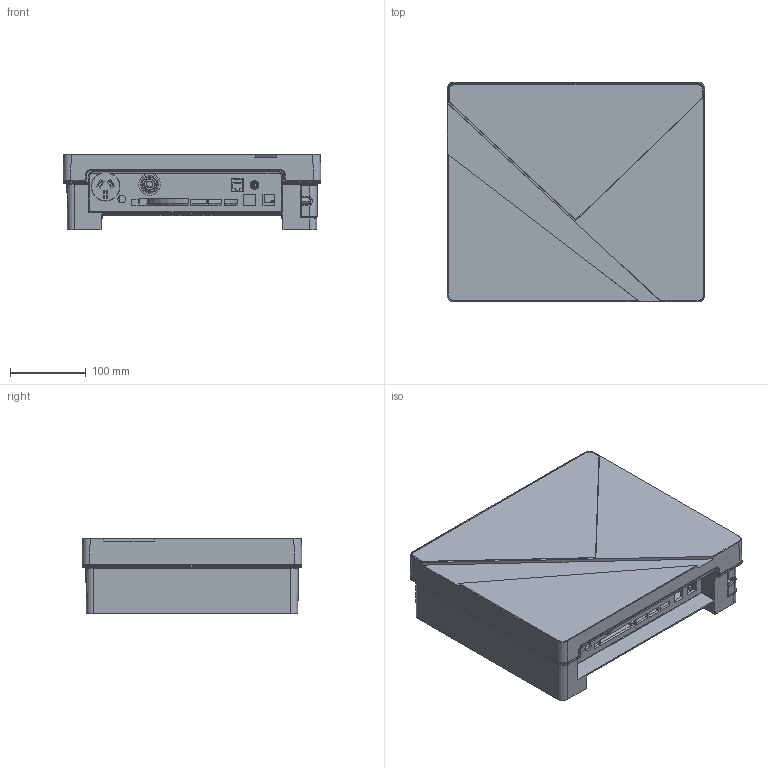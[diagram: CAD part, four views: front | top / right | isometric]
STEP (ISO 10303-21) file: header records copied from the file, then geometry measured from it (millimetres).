
FILE_DESCRIPTION((''),'2;1');
FILE_NAME('CLORADOR_A01_ASM','2024-11-04T09:03:57',('PC'),(''),'CREO PARAMETRIC BY PTC INC, 2024133','CREO PARAMETRIC BY PTC INC, 2024133','');
FILE_SCHEMA(('AUTOMOTIVE_DESIGN { 1 0 10303 214 1 1 1 1 }'));
Products named in the file (17): CARCASA_INF_A01; CARCASA_SUP_A01; PANTALLA_PMMA_A01; PANTALLA; FA-UHP-350; SCHUKO_AUS; SALNIK_IP55_DKC54520; TAPA_CONECTOR_A01; TRAFO; ISO7045-M3X8-4_8; DINENISO7092-3; ISO7045-M4X18-4_8; DINENISO7092-4; ISO7380-2-M4X35-8_8; VS-08-BU-RJ45_BU_RF_1; C-CSI-RGFB-100-UFFR-D-3D; CLORADOR_A01_ASM
Assembly tree (29 placements, depth 2):
  CLORADOR_A01_ASM
    CARCASA_INF_A01
    CARCASA_SUP_A01
    PANTALLA_PMMA_A01
    PANTALLA
    FA-UHP-350
    SCHUKO_AUS
    SALNIK_IP55_DKC54520
    TAPA_CONECTOR_A01
    TRAFO
    ISO7045-M3X8-4_8  x4
    DINENISO7092-3  x4
    ISO7045-M4X18-4_8  x4
    DINENISO7092-4  x4
    ISO7380-2-M4X35-8_8  x2
    VS-08-BU-RJ45_BU_RF_1
    C-CSI-RGFB-100-UFFR-D-3D
Bounding box: 340 x 290 x 100 mm (x, y, z)
Volume: 2207618.5 mm3; surface area: 958101.2 mm2
Topology: 30 solids, 30 shells, 2670 faces, 6749 edges, 4255 vertices
Faces by surface type: plane 1115, cylinder 831, bspline 293, torus 158, cone 153, sphere 116, extrusion 4
Entity records: 141317 total; most frequent: CARTESIAN_POINT 51805, ORIENTED_EDGE 12602, DIRECTION 11363, PRESENTATION_STYLE_ASSIGNMENT 7431, STYLED_ITEM 7341, EDGE_CURVE 6301, CURVE_STYLE 5478, AXIS2_PLACEMENT_3D 4044
